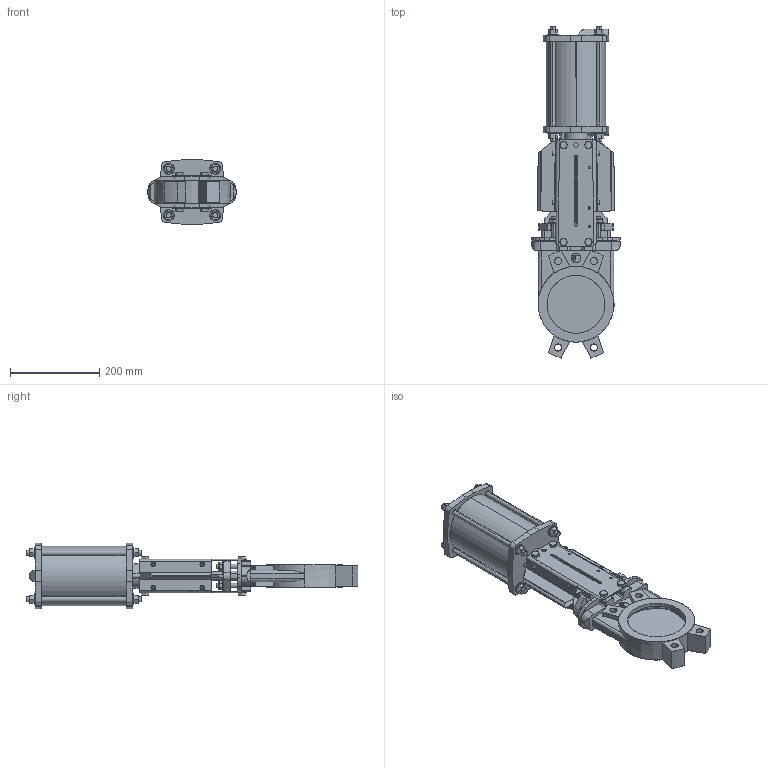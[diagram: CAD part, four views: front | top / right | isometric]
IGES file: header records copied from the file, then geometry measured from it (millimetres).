
Start section: SolidWorks IGES file using analytic representation for surfaces
Global section: file name: D:\part\3D Projects\VG-PNEUMATIC ACTUATOR(DN50-600)\VG P DN125\VG P DN125.IGS; native system: SolidWorks 2009; preprocessor: SolidWorks 2009; author: zhixin.zheng; date: 100127.155039; units: millimetre
Bounding box: 198 x 745.03 x 146.5 mm (x, y, z)
Surface area: 714070.3 mm2 (no closed solid volume)
Topology: 0 solids, 0 shells, 1100 faces, 12261 edges, 12261 vertices
Faces by surface type: bspline 679, revolution 421
